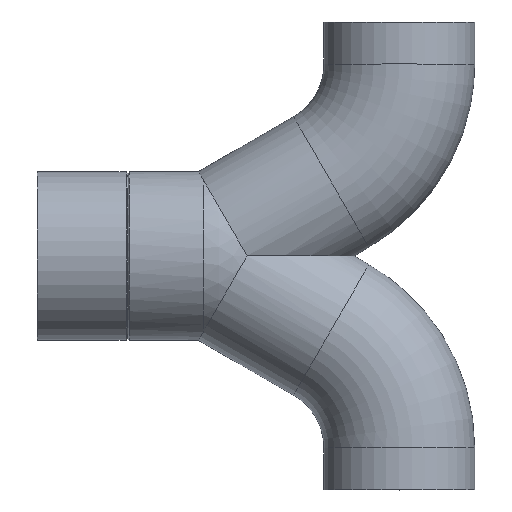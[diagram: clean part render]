
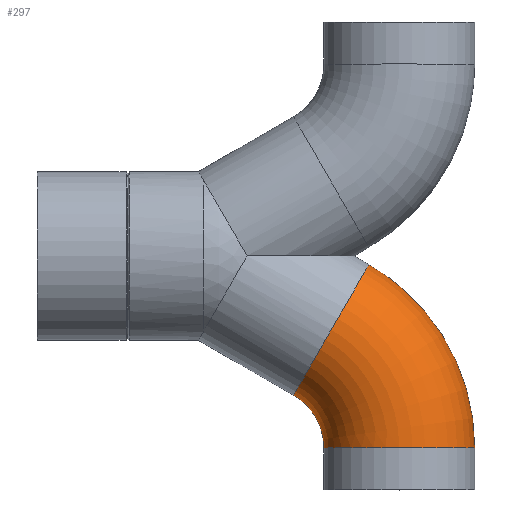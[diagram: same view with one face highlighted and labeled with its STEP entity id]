
A CAD part, top view. The second image highlights one B-rep face of the part: STEP entity #297.
In plain terms, the highlighted toroidal (fillet/blend) face has major radius 45.13 mm and minor radius 25 mm.
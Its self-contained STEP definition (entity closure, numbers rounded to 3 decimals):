
#29=TOROIDAL_SURFACE($,#329,45.13,25.);
#35=FACE_BOUND($,#83,.T.);
#58=FACE_OUTER_BOUND($,#82,.T.);
#82=EDGE_LOOP($,(#219));
#83=EDGE_LOOP($,(#220));
#124=CIRCLE($,#328,25.);
#125=CIRCLE($,#330,25.);
#153=VERTEX_POINT($,#500);
#154=VERTEX_POINT($,#503);
#182=EDGE_CURVE($,#153,#153,#124,.T.);
#183=EDGE_CURVE($,#154,#154,#125,.T.);
#219=ORIENTED_EDGE($,*,*,#182,.F.);
#220=ORIENTED_EDGE($,*,*,#183,.F.);
#297=ADVANCED_FACE($,(#58,#35),#29,.T.);
#328=AXIS2_PLACEMENT_3D($,#501,#392,#393);
#329=AXIS2_PLACEMENT_3D($,#502,#394,#395);
#330=AXIS2_PLACEMENT_3D($,#504,#396,#397);
#392=DIRECTION('center_axis',(0.,-1.,0.));
#393=DIRECTION('ref_axis',(1.,0.,0.));
#394=DIRECTION('center_axis',(0.,0.,1.));
#395=DIRECTION('ref_axis',(1.,0.,0.));
#396=DIRECTION('center_axis',(-0.866,0.5,0.));
#397=DIRECTION('ref_axis',(-0.5,-0.866,0.));
#500=CARTESIAN_POINT('',(95.,-63.583,0.));
#501=CARTESIAN_POINT('Origin',(120.,-63.583,0.));
#502=CARTESIAN_POINT('Origin',(74.87,-63.583,0.));
#503=CARTESIAN_POINT('',(97.435,-24.5,25.));
#504=CARTESIAN_POINT('Origin',(97.435,-24.5,0.));
